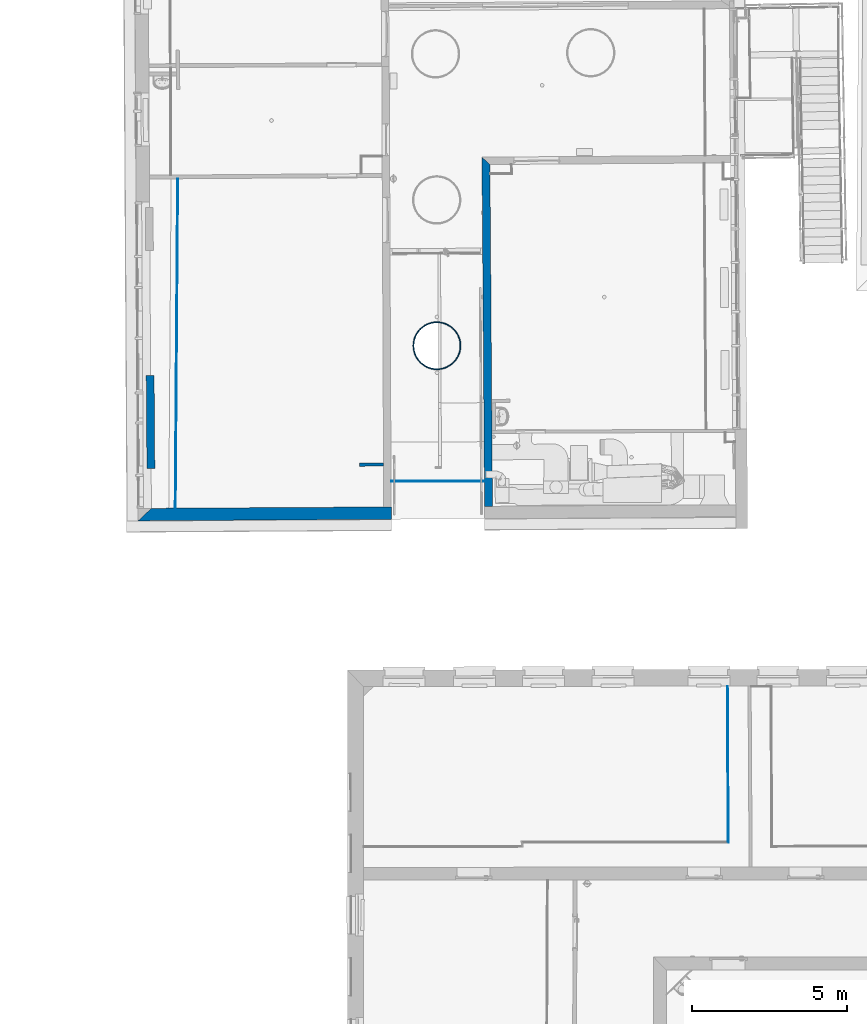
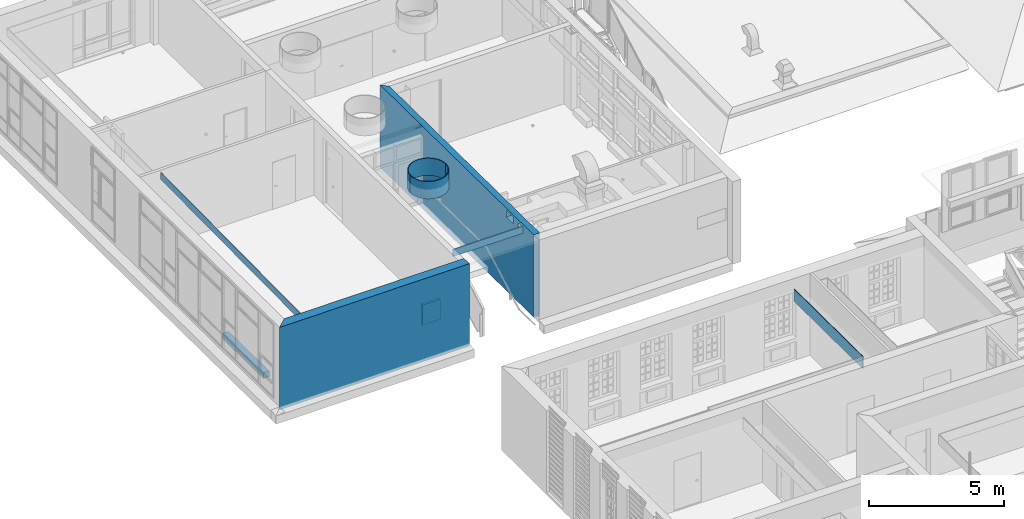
# One storey, part 23 of 158: 9 walls, 2 openings.
"""IFC2X3 building model written with IfcOpenShell, lengths in metres."""

from ifc_helpers import new_model, entity, si_unit, converted_unit, derived_unit, money_unit, point, direction, frame, frame_2d, origin_with_axes, origin_2d_with_axis, place, context, subcontext, project, spatial, polyline, circle_curve, parameter, trimmed, segment, composite_curve, rectangle, ellipse, outline, extrude, material, layer, layer_set, layer_usage, type_object, element, save


model = new_model("IFC2X3")

# Units and contexts
model_context = context("Model", 3, precision=1e-05, world=origin_with_axes(), true_north=direction((0.0, 1.0)))
body_context = subcontext(model_context, "Body", "Model", "MODEL_VIEW")
ifc_project = project(units=[si_unit("LENGTHUNIT", "METRE"), si_unit("AREAUNIT", "SQUARE_METRE"), si_unit("VOLUMEUNIT", "CUBIC_METRE"), converted_unit("PLANEANGLEUNIT", "DEGREE", entity("IfcPlaneAngleMeasure", 0.0174532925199), si_unit("PLANEANGLEUNIT", "RADIAN"), dimensions=[0, 0, 0, 0, 0, 0, 0]), money_unit("EUR"), converted_unit("TIMEUNIT", "Year", entity("IfcTimeMeasure", 31556926.0), si_unit("TIMEUNIT", "SECOND"), dimensions=[0, 0, 1, 0, 0, 0, 0]), si_unit("MASSUNIT", "GRAM", prefix="KILO"), si_unit("THERMODYNAMICTEMPERATUREUNIT", "DEGREE_CELSIUS"), si_unit("LUMINOUSINTENSITYUNIT", "LUMEN"), si_unit("ENERGYUNIT", "JOULE", prefix="MEGA"), derived_unit("THERMALCONDUCTANCEUNIT", [(si_unit("POWERUNIT", "WATT"), 1), (si_unit("LENGTHUNIT", "METRE"), -1), (si_unit("THERMODYNAMICTEMPERATUREUNIT", "KELVIN"), -1)]), derived_unit("SPECIFICHEATCAPACITYUNIT", [(si_unit("ENERGYUNIT", "JOULE"), 1), (si_unit("MASSUNIT", "GRAM", prefix="KILO"), -1), (si_unit("THERMODYNAMICTEMPERATUREUNIT", "KELVIN"), -1)]), derived_unit("MASSDENSITYUNIT", [(si_unit("MASSUNIT", "GRAM", prefix="KILO"), 1), (si_unit("VOLUMEUNIT", "CUBIC_METRE"), -1)])], contexts=[model_context])

# Site, building, storey
site_placement = place(None, origin_with_axes())
site = spatial("IfcSite", under=ifc_project, at=site_placement, Name="Gelände", CompositionType="ELEMENT")
building_placement = place(site_placement, origin_with_axes())
building = spatial("IfcBuilding", under=site, at=building_placement, Name="Gebäude", CompositionType="ELEMENT")
storey_placement = place(building_placement, origin_with_axes())
storey = spatial("IfcBuildingStorey", under=building, at=storey_placement, Name="ERDGESCHOSS", CompositionType="ELEMENT", Elevation=0.0)

# Walls
ifc_material_1 = material(Name="05_ALLGEMEIN - TRAGENDE BAUTEILE")
ifc_layer_1 = layer(ifc_material_1, 0.4, ventilated="UNKNOWN")
ifc_layer_set_1 = layer_set([ifc_layer_1], Name="05_ALLGEMEIN - TRAGENDE BAUTEILE 0.4")
ifc_layer_usage_1 = layer_usage(ifc_layer_set_1, "AXIS2", "NEGATIVE", 0.4)
wall_type_1 = type_object("IfcWallType", Name="05_ALLGEMEIN - TRAGENDE BAUTEILE 400", PredefinedType="ELEMENTEDWALL")
wall_1_placement = place(storey_placement, frame((-34.8146302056, 30.8412474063, 1.06), z_axis=(0.0, 0.0, 1.0), x_axis=(0.99998208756, 0.00598536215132, 0.0)))
element("IfcWallStandardCase", 1, at=wall_1_placement, inside=storey, type_object=wall_type_1, material=ifc_layer_usage_1, Name="Wand-030", ObjectType="ELEMENTEDWALL", context=body_context, shape_type="SweptSolid", body=[
    extrude(outline(polyline([(0.0, 0.0), (8.16762857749, 0.0), (8.16762857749, 0.4), (0.430048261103, 0.4), (0.0, 0.0)])), origin_with_axes(), (0.0, 0.0, 1.0), 3.74),
])
ifc_material_2 = material(Name="43_Gipskarton")
ifc_layer_2 = layer(ifc_material_2, 0.03, ventilated="UNKNOWN")
ifc_layer_set_2 = layer_set([ifc_layer_2], Name="43_Gipskarton 0.03")
ifc_layer_usage_2 = layer_usage(ifc_layer_set_2, "AXIS2", "NEGATIVE", 0.03)
wall_type_2 = type_object("IfcWallType", Name="43_Gipskarton 30", PredefinedType="ELEMENTEDWALL")
wall_2_placement = place(storey_placement, frame((-15.8224717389, 26.0453588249, 2.565), z_axis=(0.0, 0.0, 1.0), x_axis=(0.0050590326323, -0.999987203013, 0.0)))
element("IfcWallStandardCase", 2, at=wall_2_placement, inside=storey, type_object=wall_type_2, material=ifc_layer_usage_2, Name="Wand-039", ObjectType="ELEMENTEDWALL", context=body_context, shape_type="SweptSolid", body=[
    extrude(outline(polyline([(0.535003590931, 0.0), (5.5608114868, 0.0), (5.59100307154, 0.03), (0.535113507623, 0.03), (0.535003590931, 0.0)])), origin_with_axes(), (0.0, 0.0, 1.0), 0.55),
])
ifc_layer_usage_3 = layer_usage(ifc_layer_set_2, "AXIS2", "NEGATIVE", 0.0)
wall_3_placement = place(storey_placement, frame((-33.6302870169, 30.8483362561, 4.385), z_axis=(0.0, 0.0, 1.0), x_axis=(0.00726242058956, 0.999973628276, 0.0)))
element("IfcWallStandardCase", 3, at=wall_3_placement, inside=storey, type_object=wall_type_2, material=ifc_layer_usage_3, Name="Wand-039", ObjectType="ELEMENTEDWALL", context=body_context, shape_type="SweptSolid", body=[
    extrude(outline(polyline([(0.400432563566, -0.03), (11.0250764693, -0.03), (11.024640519, 0.0), (0.400035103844, 0.0), (0.400432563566, -0.03)])), origin_with_axes(), (0.0, 0.0, 1.0), 0.31),
])
ifc_layer_usage_4 = layer_usage(ifc_layer_set_2, "AXIS2", "NEGATIVE", 0.03)
wall_4_placement = place(storey_placement, frame((-26.6582120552, 32.0961504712, 4.39), z_axis=(0.0, 0.0, 1.0), x_axis=(0.999994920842, 0.00318720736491, 0.0)))
element("IfcWallStandardCase", 4, at=wall_4_placement, inside=storey, type_object=wall_type_2, material=ifc_layer_usage_4, Name="Wand-040", ObjectType="ELEMENTEDWALL", context=body_context, shape_type="SweptSolid", body=[
    extrude(outline(polyline([(0.0, 0.0), (3.01036268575, 0.0), (3.01023741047, 0.03), (-3.65218578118e-05, 0.03), (0.0, 0.0)])), origin_with_axes(), (0.0, 0.0, 1.0), 0.32),
])
ifc_layer_3 = layer(ifc_material_1, 0.03, ventilated="UNKNOWN")
ifc_layer_set_3 = layer_set([ifc_layer_3], Name="05_ALLGEMEIN - TRAGENDE BAUTEILE 0.03")
ifc_layer_usage_5 = layer_usage(ifc_layer_set_3, "AXIS2", "NEGATIVE", 0.0)
wall_type_3 = type_object("IfcWallType", Name="05_ALLGEMEIN - TRAGENDE BAUTEILE 30", PredefinedType="ELEMENTEDWALL")
wall_5_placement = place(storey_placement, frame((-24.43381402, 36.4880946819, 4.375), z_axis=(0.0, 0.0, 1.0), x_axis=(0.0, 1.0, 0.0)))
element("IfcWallStandardCase", 5, at=wall_5_placement, inside=storey, type_object=wall_type_3, material=ifc_layer_usage_5, Name="Wand-040", ObjectType="ELEMENTEDWALL", context=body_context, shape_type="SweptSolid", body=[
    extrude(outline(composite_curve([segment(trimmed(circle_curve(frame_2d((0.0, 0.743220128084), x_axis=(0.0, -1.0)), 0.773220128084), [point((0.0, -0.03)), parameter(0.0)], [point((0.0, 1.51644025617)), parameter(180.0)], True, "CARTESIAN"), True, "CONTINUOUS"), segment(polyline([(0.0, 1.51644025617), (0.0, 1.48644025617)]), True, "CONTINUOUS"), segment(trimmed(circle_curve(frame_2d((0.0, 0.743220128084), x_axis=(0.0, -1.0)), 0.743220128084), [point((0.0, 1.48644025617)), parameter(180.0)], [point((0.0, 0.0)), parameter(0.0)], False, "CARTESIAN"), True, "CONTINUOUS"), segment(polyline([(0.0, 0.0), (0.0, -0.03)]), True, "CONTINUOUS")], self_intersect=False)), origin_with_axes(), (0.0, 0.0, 1.0), 0.78255860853),
])
ifc_layer_usage_6 = layer_usage(ifc_layer_set_3, "AXIS2", "NEGATIVE", 0.0)
wall_6_placement = place(storey_placement, frame((-25.9202542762, 36.4880946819, 4.375), z_axis=(0.0, 0.0, 1.0), x_axis=(0.0, -1.0, 0.0)))
element("IfcWallStandardCase", 6, at=wall_6_placement, inside=storey, type_object=wall_type_3, material=ifc_layer_usage_6, Name="Wand-041", ObjectType="ELEMENTEDWALL", context=body_context, shape_type="SweptSolid", body=[
    extrude(outline(composite_curve([segment(trimmed(circle_curve(frame_2d((0.0, 0.743220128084), x_axis=(0.0, -1.0)), 0.773220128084), [point((0.0, -0.03)), parameter(0.0)], [point((0.0, 1.51644025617)), parameter(180.0)], True, "CARTESIAN"), True, "CONTINUOUS"), segment(polyline([(0.0, 1.51644025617), (0.0, 1.48644025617)]), True, "CONTINUOUS"), segment(trimmed(circle_curve(frame_2d((0.0, 0.743220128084), x_axis=(0.0, -1.0)), 0.743220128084), [point((0.0, 1.48644025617)), parameter(180.0)], [point((0.0, 0.0)), parameter(0.0)], False, "CARTESIAN"), True, "CONTINUOUS"), segment(polyline([(0.0, 0.0), (0.0, -0.03)]), True, "CONTINUOUS")], self_intersect=False)), origin_with_axes(), (0.0, 0.0, 1.0), 0.78255860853),
])
ifc_material_3 = material(Name="01_ALLGEMEIN - BAUTEIL")
ifc_layer_4 = layer(ifc_material_3, 0.255, ventilated="UNKNOWN")
ifc_layer_set_4 = layer_set([ifc_layer_4], Name="01_ALLGEMEIN - BAUTEIL 0.255")
ifc_layer_usage_7 = layer_usage(ifc_layer_set_4, "AXIS2", "NEGATIVE", 0.255)
wall_type_4 = type_object("IfcWallType", Name="01_ALLGEMEIN - BAUTEIL 255", PredefinedType="ELEMENTEDWALL")
wall_7_placement = place(storey_placement, frame((-34.2765746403, 32.5340898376, 1.34787238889), z_axis=(0.0, 0.0, 1.0), x_axis=(-0.00750550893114, 0.999971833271, 0.0)))
element("IfcWallStandardCase", 7, at=wall_7_placement, inside=storey, type_object=wall_type_4, material=ifc_layer_usage_7, Name="Wand-030", ObjectType="ELEMENTEDWALL", context=body_context, shape_type="SweptSolid", body=[
    extrude(outline(polyline([(0.0, 0.0), (2.98889756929, 0.0), (2.98889756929, 0.255), (0.0, 0.255), (0.0, 0.0)])), origin_with_axes(), (0.0, 0.0, 1.0), 0.260503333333),
])

# Wall, openings
ifc_layer_5 = layer(ifc_material_1, 0.255399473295, ventilated="UNKNOWN")
ifc_layer_set_5 = layer_set([ifc_layer_5], Name="05_ALLGEMEIN - TRAGENDE BAUTEILE 0.255399")
ifc_layer_usage_8 = layer_usage(ifc_layer_set_5, "AXIS2", "NEGATIVE", 0.255399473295)
wall_type_5 = type_object("IfcWallType", Name="05_ALLGEMEIN - TRAGENDE BAUTEILE 255", PredefinedType="ELEMENTEDWALL")
wall_8_placement = place(storey_placement, frame((-23.7231544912, 42.3309457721, 1.06), z_axis=(0.0, 0.0, 1.0), x_axis=(0.00736296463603, -0.999972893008, 0.0)))
wall_8 = element("IfcWallStandardCase", 8, at=wall_8_placement, inside=storey, type_object=wall_type_5, material=ifc_layer_usage_8, Name="Wand-030", ObjectType="ELEMENTEDWALL", context=body_context, shape_type="SweptSolid", body=[
    extrude(outline(polyline([(-0.240000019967, 0.0), (11.0231165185, 0.0), (11.0234683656, 0.255399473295), (0.000104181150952, 0.255399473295), (-0.240000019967, 0.0)])), origin_with_axes(), (0.0, 0.0, 1.0), 3.74),
])
opening_1_placement = place(wall_8_placement, frame((42.504471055, 23.4108301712, -1.06), z_axis=(0.0, 0.0, 1.0), x_axis=(0.00736296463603, 0.999972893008, 0.0)))
element("IfcOpeningElement", 9, at=opening_1_placement, cuts=wall_8, Name="DD-009", ObjectType="RECESS", context=body_context, shape_type="SweptSolid", body=[
    extrude(ellipse(SemiAxis1=0.15, SemiAxis2=0.15, at=origin_2d_with_axis()), frame((-24.0626550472, 32.327901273, 4.52832122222), z_axis=(-0.999972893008, -0.00736296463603, 0.0), x_axis=(0.00736296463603, -0.999972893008, 0.0)), (0.0, 0.0, -1.0), 1.01852927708),
])
opening_2_placement = place(wall_8_placement, frame((42.504471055, 23.4108301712, -1.06), z_axis=(0.0, 0.0, 1.0), x_axis=(0.00736296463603, 0.999972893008, 0.0)))
element("IfcOpeningElement", 10, at=opening_2_placement, cuts=wall_8, Name="DD-010", ObjectType="RECESS", context=body_context, shape_type="SweptSolid", body=[
    extrude(rectangle(XDim=0.538074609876, YDim=0.309078, at=origin_2d_with_axis()), frame((-24.0626550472, 33.0448086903, 4.55529988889), z_axis=(-0.999972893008, -0.00736296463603, 0.0), x_axis=(0.00736296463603, -0.999972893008, 0.0)), (0.0, 0.0, -1.0), 1.01852927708),
])

# Wall
ifc_layer_6 = layer(ifc_material_2, 0.105, ventilated="UNKNOWN")
ifc_layer_set_6 = layer_set([ifc_layer_6], Name="43_Gipskarton 0.105")
ifc_layer_usage_9 = layer_usage(ifc_layer_set_6, "AXIS2", "NEGATIVE", 0.105)
wall_type_6 = type_object("IfcWallType", Name="43_Gipskarton 105", PredefinedType="ELEMENTEDWALL")
wall_9_placement = place(storey_placement, frame((-26.6609446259, 32.7165356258, 1.32), z_axis=(0.0, 0.0, 1.0), x_axis=(-0.999924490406, -0.0122887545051, 0.0)))
element("IfcWallStandardCase", 11, at=wall_9_placement, inside=storey, type_object=wall_type_6, material=ifc_layer_usage_9, Name="Wand-031", ObjectType="ELEMENTEDWALL", context=body_context, shape_type="SweptSolid", body=[
    extrude(outline(polyline([(0.240007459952, 0.0), (1.01371965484, 0.0), (1.01371965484, 0.105), (0.240835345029, 0.105), (0.240007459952, 0.0)])), origin_with_axes(), (0.0, 0.0, 1.0), 0.922029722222),
])

save(model, "model.ifc")
